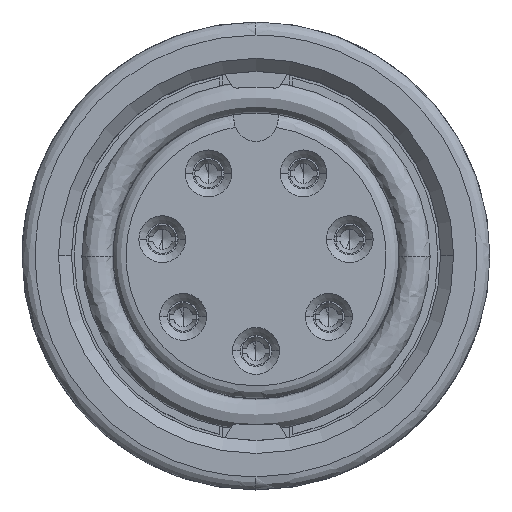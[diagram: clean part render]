
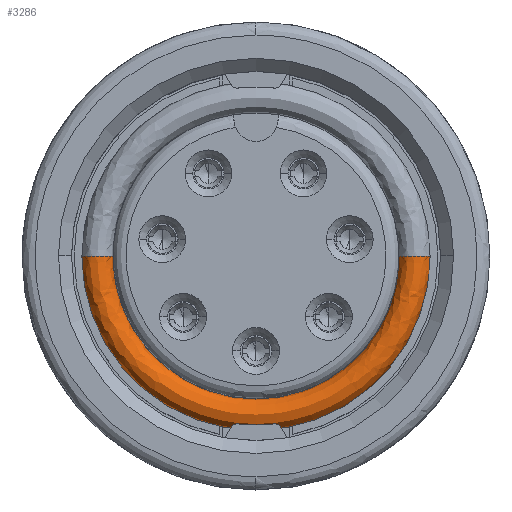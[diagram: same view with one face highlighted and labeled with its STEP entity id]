
A CAD part, top view. The second image highlights one B-rep face of the part: STEP entity #3286.
In plain terms, the highlighted free-form (B-spline) face has degree [3, 3] with [4, 4] control points.
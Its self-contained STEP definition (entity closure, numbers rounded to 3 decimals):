
#1422 = CARTESIAN_POINT ( 'NONE',  ( -5.5, 0., -7.2 ) ) ;
#1913 = DIRECTION ( 'NONE',  ( -1., 0., 0. ) ) ;
#3286 = ADVANCED_FACE ( 'NONE', ( #31879 ), #23428, .T. ) ;
#3827 = VERTEX_POINT ( 'NONE', #14027 ) ;
#4164 = EDGE_CURVE ( 'NONE', #3827, #8410, #11831, .T. ) ;
#4303 = CARTESIAN_POINT ( 'NONE',  ( -6.7, 0., -6. ) ) ;
#4848 = CARTESIAN_POINT ( 'NONE',  ( 6.7, 0., -6. ) ) ;
#4958 = DIRECTION ( 'NONE',  ( 0., -1., 0. ) ) ;
#7010 = CARTESIAN_POINT ( 'NONE',  ( 6.1, 0., -7.2 ) ) ;
#8410 = VERTEX_POINT ( 'NONE', #28983 ) ;
#9350 = DIRECTION ( 'NONE',  ( 1., 0., 0. ) ) ;
#9716 = CARTESIAN_POINT ( 'NONE',  ( -6.7, 0., -7.2 ) ) ;
#9777 = AXIS2_PLACEMENT_3D ( 'NONE', #27319, #4958, #10187 ) ;
#10187 = DIRECTION ( 'NONE',  ( -1., 0., 0. ) ) ;
#11168 = AXIS2_PLACEMENT_3D ( 'NONE', #23545, #26255, #1913 ) ;
#11831 = CIRCLE ( 'NONE', #17603, 5.5 ) ;
#12401 = DIRECTION ( 'NONE',  ( 0., -1., 0. ) ) ;
#12564 = AXIS2_PLACEMENT_3D ( 'NONE', #7010, #12401, #9350 ) ;
#12761 = CARTESIAN_POINT ( 'NONE',  ( 5.5, -11., -6. ) ) ;
#12766 = VERTEX_POINT ( 'NONE', #35205 ) ;
#13439 = CIRCLE ( 'NONE', #11168, 6.7 ) ;
#14027 = CARTESIAN_POINT ( 'NONE',  ( 5.5, 0., -7.2 ) ) ;
#15120 = CARTESIAN_POINT ( 'NONE',  ( -6.7, 0., -7.2 ) ) ;
#15663 = CARTESIAN_POINT ( 'NONE',  ( 5.5, 0., -7.2 ) ) ;
#16141 = EDGE_LOOP ( 'NONE', ( #17656, #25255, #27452, #20697 ) ) ;
#17603 = AXIS2_PLACEMENT_3D ( 'NONE', #28999, #23409, #26840 ) ;
#17656 = ORIENTED_EDGE ( 'NONE', *, *, #34377, .T. ) ;
#18193 = CARTESIAN_POINT ( 'NONE',  ( 5.5, 0., -6. ) ) ;
#20697 = ORIENTED_EDGE ( 'NONE', *, *, #25347, .T. ) ;
#23409 = DIRECTION ( 'NONE',  ( 0., 0., -1. ) ) ;
#23428 =( BOUNDED_SURFACE ( )  B_SPLINE_SURFACE ( 3, 3, ( 
 ( #26304, #31694, #29365, #15120 ),
 ( #4848, #26130, #23596, #4303 ),
 ( #18193, #12761, #26484, #29548 ),
 ( #15663, #26666, #23781, #1422 ) ),
 .UNSPECIFIED., .F., .F., .F. ) 
 B_SPLINE_SURFACE_WITH_KNOTS ( ( 4, 4 ),
 ( 4, 4 ),
 ( 0., 1. ),
 ( 0., 1. ),
 .UNSPECIFIED. ) 
 GEOMETRIC_REPRESENTATION_ITEM ( )  RATIONAL_B_SPLINE_SURFACE ( (
 ( 1., 0.333, 0.333, 1.),
 ( 0.333, 0.111, 0.111, 0.333),
 ( 0.333, 0.111, 0.111, 0.333),
 ( 1., 0.333, 0.333, 1.) ) ) 
 REPRESENTATION_ITEM ( '' )  SURFACE ( )  );
#23521 = VERTEX_POINT ( 'NONE', #9716 ) ;
#23545 = CARTESIAN_POINT ( 'NONE',  ( 0., 0., -7.2 ) ) ;
#23596 = CARTESIAN_POINT ( 'NONE',  ( -6.7, -13.4, -6. ) ) ;
#23781 = CARTESIAN_POINT ( 'NONE',  ( -5.5, -11., -7.2 ) ) ;
#25255 = ORIENTED_EDGE ( 'NONE', *, *, #29906, .T. ) ;
#25338 = CIRCLE ( 'NONE', #9777, 0.6 ) ;
#25347 = EDGE_CURVE ( 'NONE', #8410, #23521, #25338, .T. ) ;
#26130 = CARTESIAN_POINT ( 'NONE',  ( 6.7, -13.4, -6. ) ) ;
#26255 = DIRECTION ( 'NONE',  ( 0., 0., 1. ) ) ;
#26304 = CARTESIAN_POINT ( 'NONE',  ( 6.7, 0., -7.2 ) ) ;
#26484 = CARTESIAN_POINT ( 'NONE',  ( -5.5, -11., -6. ) ) ;
#26666 = CARTESIAN_POINT ( 'NONE',  ( 5.5, -11., -7.2 ) ) ;
#26840 = DIRECTION ( 'NONE',  ( -1., 0., 0. ) ) ;
#27319 = CARTESIAN_POINT ( 'NONE',  ( -6.1, 0., -7.2 ) ) ;
#27452 = ORIENTED_EDGE ( 'NONE', *, *, #4164, .T. ) ;
#28983 = CARTESIAN_POINT ( 'NONE',  ( -5.5, 0., -7.2 ) ) ;
#28999 = CARTESIAN_POINT ( 'NONE',  ( 0., 0., -7.2 ) ) ;
#29365 = CARTESIAN_POINT ( 'NONE',  ( -6.7, -13.4, -7.2 ) ) ;
#29548 = CARTESIAN_POINT ( 'NONE',  ( -5.5, 0., -6. ) ) ;
#29906 = EDGE_CURVE ( 'NONE', #12766, #3827, #35027, .T. ) ;
#31694 = CARTESIAN_POINT ( 'NONE',  ( 6.7, -13.4, -7.2 ) ) ;
#31879 = FACE_OUTER_BOUND ( 'NONE', #16141, .T. ) ;
#34377 = EDGE_CURVE ( 'NONE', #23521, #12766, #13439, .T. ) ;
#35027 = CIRCLE ( 'NONE', #12564, 0.6 ) ;
#35205 = CARTESIAN_POINT ( 'NONE',  ( 6.7, 0., -7.2 ) ) ;
